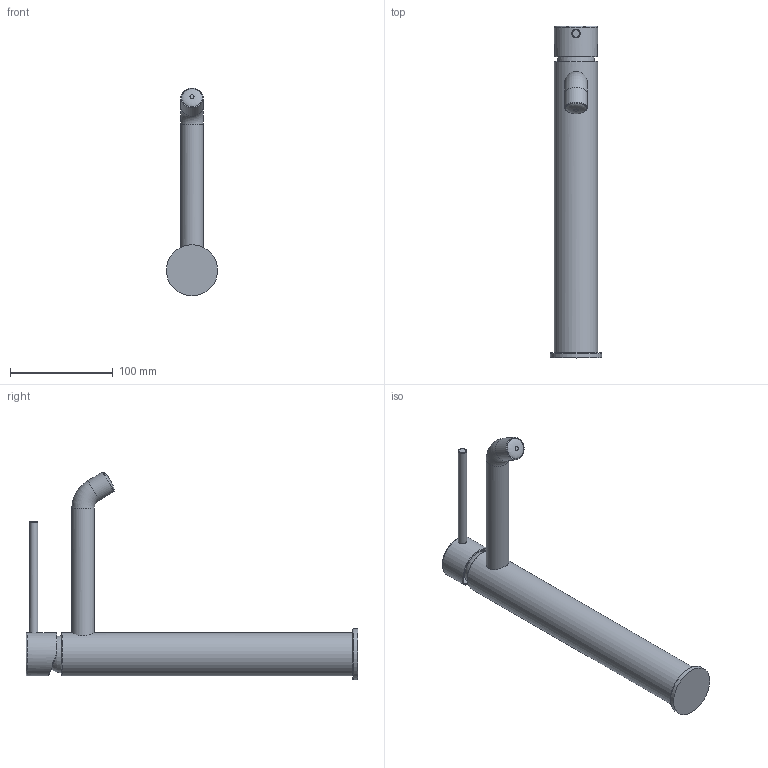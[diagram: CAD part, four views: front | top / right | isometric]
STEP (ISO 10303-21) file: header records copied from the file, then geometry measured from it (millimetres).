
FILE_DESCRIPTION(('STEP AP242'), '1');
FILE_NAME('78..205OLL', '', ('UNSPECIFIED'), ('UNSPECIFIED'), 'C3D Converter', 'C3D Toolkit', '');
FILE_SCHEMA(('AP242_MANAGED_MODEL_BASED_3D_ENGINEERING_MIM_LF { 1 0 10303 442 1 1 4 }'));
Length unit declared in the file: millimetre
Bounding box: 49.8 x 323 x 202.24 mm (x, y, z)
Volume: 489325.4 mm3; surface area: 67440.3 mm2
Topology: 3 solids, 3 shells, 30 faces, 59 edges, 37 vertices
Faces by surface type: plane 12, cylinder 8, torus 7, bspline 2, sphere 1
Full cylindrical faces by diameter (mm): 8 x2, 22 x2, 39 x1, 42 x2, 49.8 x1
Entity records: 1692 total; most frequent: CARTESIAN_POINT 872, DIRECTION 108, ORIENTED_EDGE 80, AXIS2_PLACEMENT_3D 53, EDGE_LOOP 50, EDGE_CURVE 40, VERTEX_POINT 36, COLOUR_RGB 33
